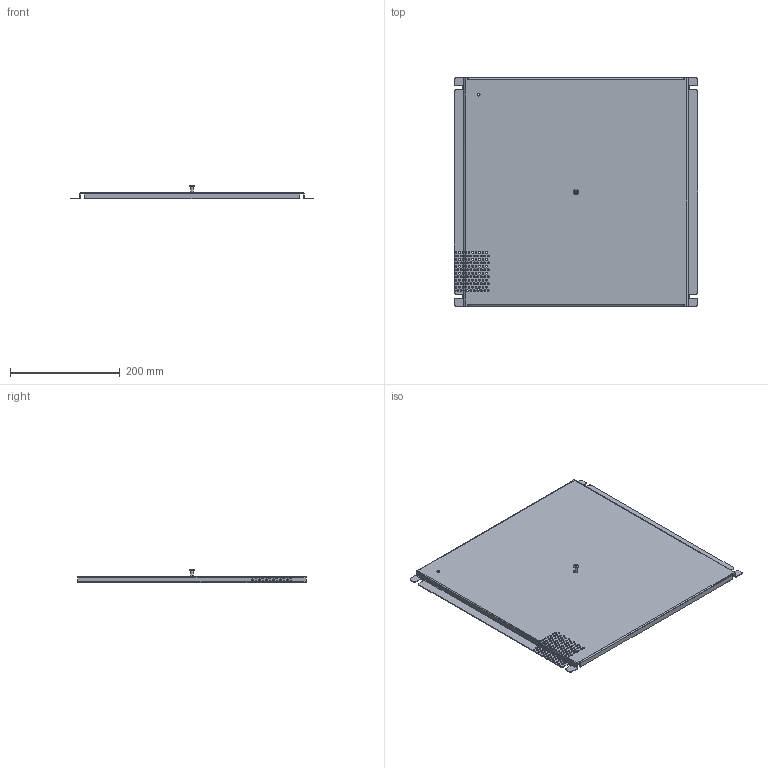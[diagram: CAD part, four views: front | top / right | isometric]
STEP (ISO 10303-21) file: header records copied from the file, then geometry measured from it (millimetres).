
FILE_DESCRIPTION(/* description */ ('Unknown'),/* implementation_level */ '2;1');
FILE_NAME(/* name */ 'CS1818PP',/* time_stamp */ '2025-09-19T11:16:06-04:00',/* author */ ('Unknown'),/* organization */ ('Unknown'),/* preprocessor_version */ 'ST-DEVELOPER v18.104',/* originating_system */ 'Solid Edge',/* authorisation */ 'Unknown');
FILE_SCHEMA (('AUTOMOTIVE_DESIGN {1 0 10303 214 3 1 1}'));
Length unit declared in the file: millimetre
Products named in the file (8): CS1818PP; COM71596-4; PNT11078; BUL88700; KIT95109; COM71595-1; SCS19495
Assembly tree (7 placements, depth 3):
  CS1818PP
    COM71596-4
      COM71596-4
      PNT11078
    BUL88700
    KIT95109
      COM71595-1
      SCS19495
Bounding box: 444.5 x 416.56 x 25.22 mm (x, y, z)
Volume: 286793.6 mm3; surface area: 400837.7 mm2
Topology: 3 solids, 3 shells, 287 faces, 991 edges, 664 vertices
Faces by surface type: cylinder 188, plane 72, bspline 24, torus 3
Full cylindrical faces by diameter (mm): 3.175 x107, 4.826 x1, 5.105 x1, 9.322 x1
Entity records: 12018 total; most frequent: CARTESIAN_POINT 3785, DIRECTION 1642, ORIENTED_EDGE 1538, EDGE_CURVE 769, AXIS2_PLACEMENT_3D 650, EDGE_LOOP 620, FACE_BOUND 620, VERTEX_POINT 555
